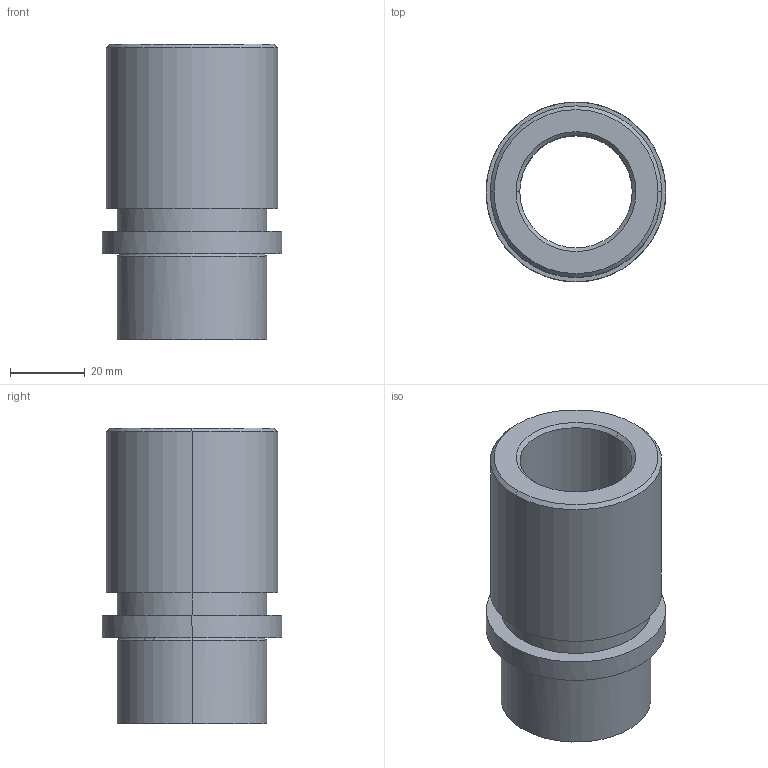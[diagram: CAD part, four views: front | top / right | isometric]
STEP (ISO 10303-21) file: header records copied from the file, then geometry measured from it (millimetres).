
FILE_DESCRIPTION(('CATIA V5 STEP Exchange'),'2;1');
FILE_NAME('C:\Users\Utente\Desktop\IO LAVORO\3D X SITO CF\X SITO\733\733-24.stp','2021-01-11T17:39:42+00:00',('none'),('none'),'CATIA Version 5 Release 20 GA (IN-10)','CATIA V5 STEP AP203','none');
FILE_SCHEMA(('CONFIG_CONTROL_DESIGN'));
Length unit declared in the file: millimetre
Products named in the file (1): 733-24
Assembly tree (1 placements, depth 2):
  733-24
    #58
Bounding box: 48 x 48 x 79 mm (x, y, z)
Volume: 63673.9 mm3; surface area: 21320.3 mm2
Topology: 1 solids, 1 shells, 25 faces, 50 edges, 30 vertices
Faces by surface type: cylinder 10, cone 6, plane 5, torus 4
Entity records: 851 total; most frequent: CARTESIAN_POINT 282, ORIENTED_EDGE 100, DIRECTION 96, AXIS2_PLACEMENT_3D 53, EDGE_CURVE 50, EDGE_LOOP 30, VERTEX_POINT 30, CIRCLE 26
